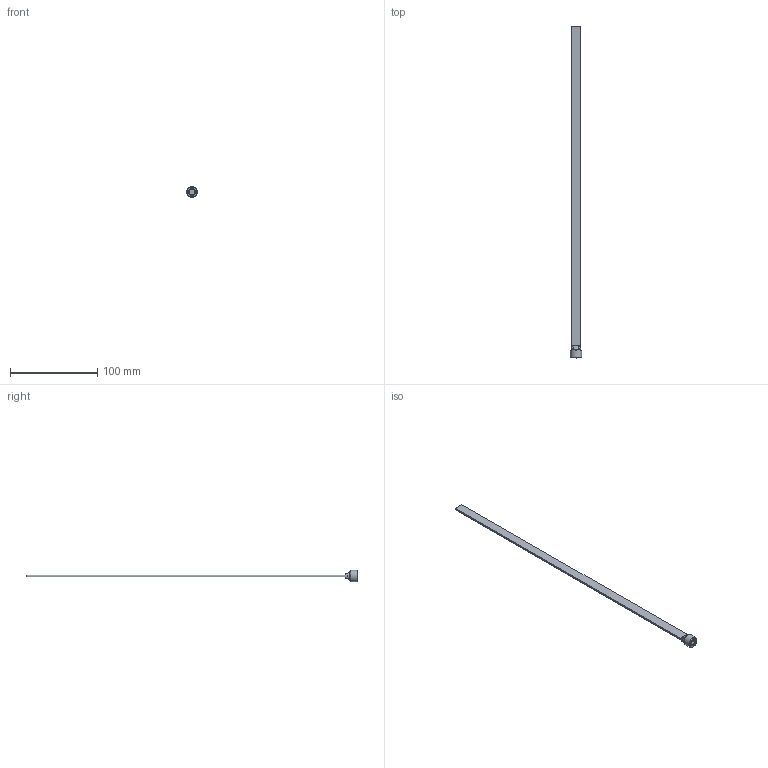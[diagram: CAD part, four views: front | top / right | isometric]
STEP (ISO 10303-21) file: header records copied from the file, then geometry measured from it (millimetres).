
FILE_DESCRIPTION(/* description */ (''),/* implementation_level */ '2;1');
FILE_NAME(/* name */ 'C:/Users/drich/Desktop/SB14X15BSP v1.step',/* time_stamp */ '2020-01-04T16:01:56-06:00',/* author */ (''),/* organization */ (''),/* preprocessor_version */ 'ST-DEVELOPER v18',/* originating_system */ 'Autodesk Translation Framework v8.12.0.6',/* authorisation */ '');
FILE_SCHEMA (('AUTOMOTIVE_DESIGN { 1 0 10303 214 3 1 1 }'));
Length unit declared in the file: inch
Products named in the file (1): SB14X15BSP
Bounding box: 13.03 x 381 x 13.03 mm (x, y, z)
Volume: 9933.9 mm3; surface area: 10427.3 mm2
Topology: 1 solids, 1 shells, 39 faces, 103 edges, 67 vertices
Faces by surface type: plane 19, cylinder 6, bspline 6, torus 5, cone 3
Full cylindrical faces by diameter (mm): 10.82 x1, 13.032 x1
Entity records: 1578 total; most frequent: CARTESIAN_POINT 605, ORIENTED_EDGE 206, DIRECTION 183, EDGE_CURVE 103, AXIS2_PLACEMENT_3D 70, VERTEX_POINT 67, LINE 43, VECTOR 43
